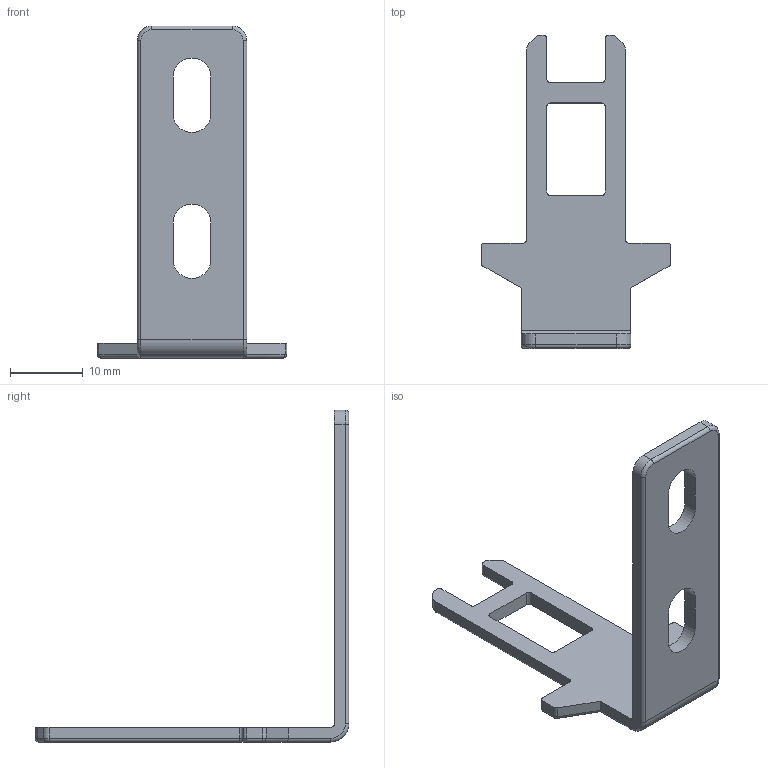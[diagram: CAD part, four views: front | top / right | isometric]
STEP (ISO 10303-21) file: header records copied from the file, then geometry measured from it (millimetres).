
FILE_DESCRIPTION((''),'2;1');
FILE_NAME('TIAO-YAOSHI-WAN','2022-03-05T',('Administrator'),(''),'PRO/ENGINEER BY PARAMETRIC TECHNOLOGY CORPORATION, 2010280','PRO/ENGINEER BY PARAMETRIC TECHNOLOGY CORPORATION, 2010280','');
FILE_SCHEMA(('CONFIG_CONTROL_DESIGN'));
Length unit declared in the file: millimetre
Products named in the file (1): TIAO-YAOSHI-WAN
Bounding box: 26 x 43 x 45.5 mm (x, y, z)
Volume: 2075 mm3; surface area: 2677.4 mm2
Topology: 1 solids, 1 shells, 94 faces, 232 edges, 140 vertices
Faces by surface type: cylinder 46, plane 30, torus 11, sphere 6, bspline 1
Entity records: 2831 total; most frequent: DIRECTION 516, CARTESIAN_POINT 491, ORIENTED_EDGE 464, EDGE_CURVE 232, AXIS2_PLACEMENT_3D 193, VERTEX_POINT 140, VECTOR 130, LINE 130
